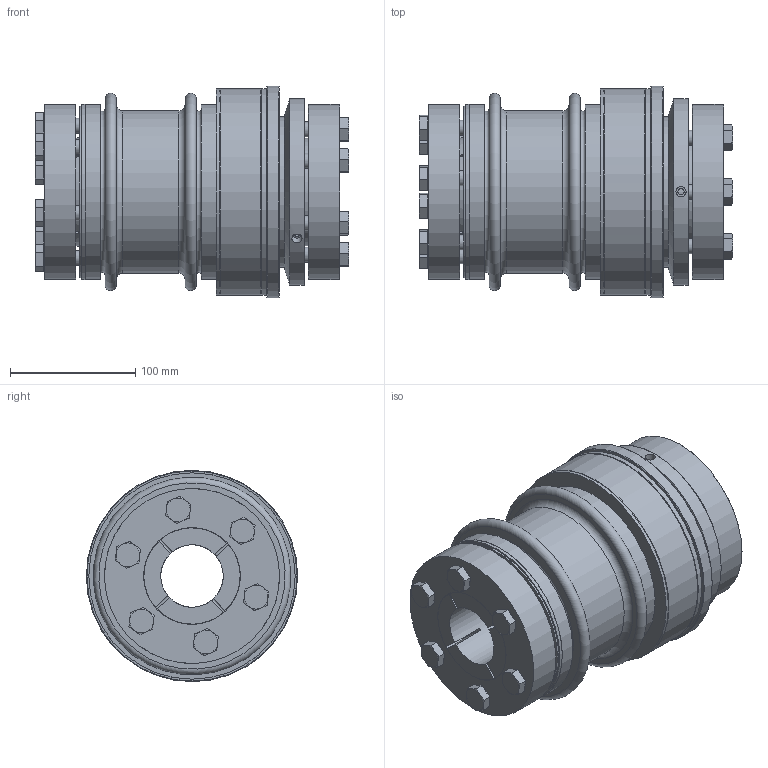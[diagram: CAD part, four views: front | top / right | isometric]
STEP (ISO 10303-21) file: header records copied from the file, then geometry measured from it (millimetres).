
FILE_DESCRIPTION( ( 'Unknown' ), '1' );
FILE_NAME( 'K:/Konstruktion/Korrigierte 3D Modelle/KBK-B-AA/KBK-BAA-800-250.stp', 'Unknown', ( 'Unknown' ), ( 'Unknown' ), 'PSStep 16.0.42', 'Unknown', ' ' );
FILE_SCHEMA( ( 'AUTOMOTIVE_DESIGN { 1 0 10303 214 1 1 1 1 }' ) );
Length unit declared in the file: millimetre
Products named in the file (29): ball_bearing_-_61916_0_02_0; ball_bearing_-_61916_0_01_0; ball_bearing_-_61916_0_03_0; Assem2; Stellring 800_0; a_80_0; KBK L-A-800 Grundkörper_0; Flansch 800_0; Druckring L-A-800_0; Druckring 800_0; din_en_24017_m12x40_0; KB6-800 für SIK; BalgaufnahmeKB6_1400-184; Druckring_KB6_1400-184_3000-220; B800-3000; ISO 4017 - M12 x 40; KBK L-A-800; Assem1; Flansch 800 - 1400
Assembly tree (38 placements, depth 5):
  Assem1
    Flansch 800 - 1400
    KB6-800 für SIK
      BalgaufnahmeKB6_1400-184
      Druckring_KB6_1400-184_3000-220
      B800-3000
      ISO 4017 - M12 x 40  x6
    KBK L-A-800
      Stellring 800_0
        Stellring 800_0
      Druckring 800_0
        Druckring 800_0
      a_80_0
        a_80_0
      KBK L-A-800 Grundkörper_0
        KBK L-A-800 Grundkörper_0
      din_en_24017_m12x40_0  x6
        din_en_24017_m12x40_0
      Flansch 800_0
        Flansch 800_0
      Druckring L-A-800_0
        Druckring L-A-800_0
      Assem2
        ball_bearing_-_61916_0_01_0
          ball_bearing_-_61916_0_01_0
        ball_bearing_-_61916_0_02_0
          ball_bearing_-_61916_0_02_0
        ball_bearing_-_61916_0_03_0
          ball_bearing_-_61916_0_03_0
Bounding box: 250.6 x 169 x 169 mm (x, y, z)
Volume: 2676461.6 mm3; surface area: 608172.6 mm2
Topology: 25 solids, 25 shells, 511 faces, 1071 edges, 676 vertices
Faces by surface type: plane 220, cone 132, cylinder 124, torus 35
Full cylindrical faces by diameter (mm): 3 x2, 4.917 x3, 6.2 x3, 8.1 x3, 10.106 x12, 10.2 x6, 12 x18, 14 x12, 16.63 x6, 17.4 x6, 50 x2, 76.5 x1, 80 x3, 85.816 x1, 89.6 x2, 100 x2, 101 x2, 110 x3, 120 x2, 126 x2, 127 x1, 130 x1, 135 x1, 137 x3, 137.5 x2, 140 x5, 148 x1, 149 x1, 165 x3, 169 x1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
Entity records: 10580 total; most frequent: CARTESIAN_POINT 1855, DIRECTION 1356, ORIENTED_EDGE 882, AXIS2_PLACEMENT_3D 630, EDGE_LOOP 540, EDGE_CURVE 441, FACE_OUTER_BOUND 399, VERTEX_POINT 367
